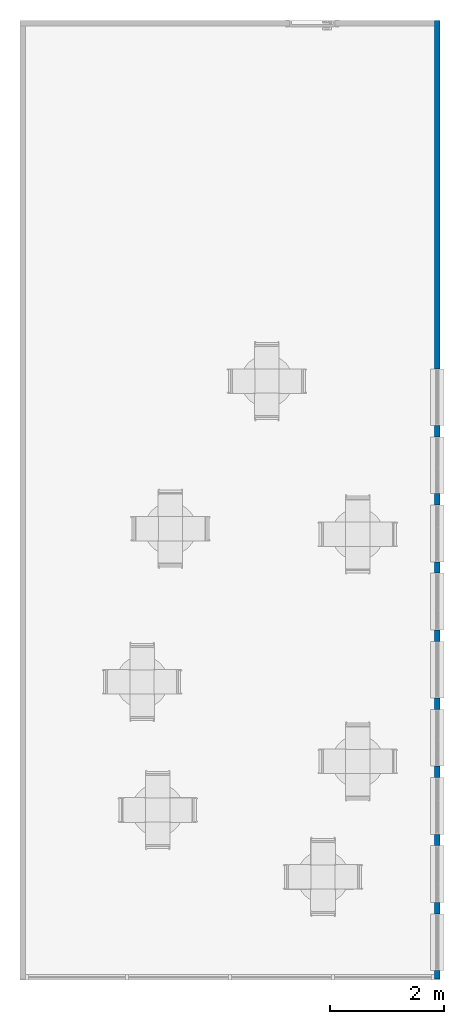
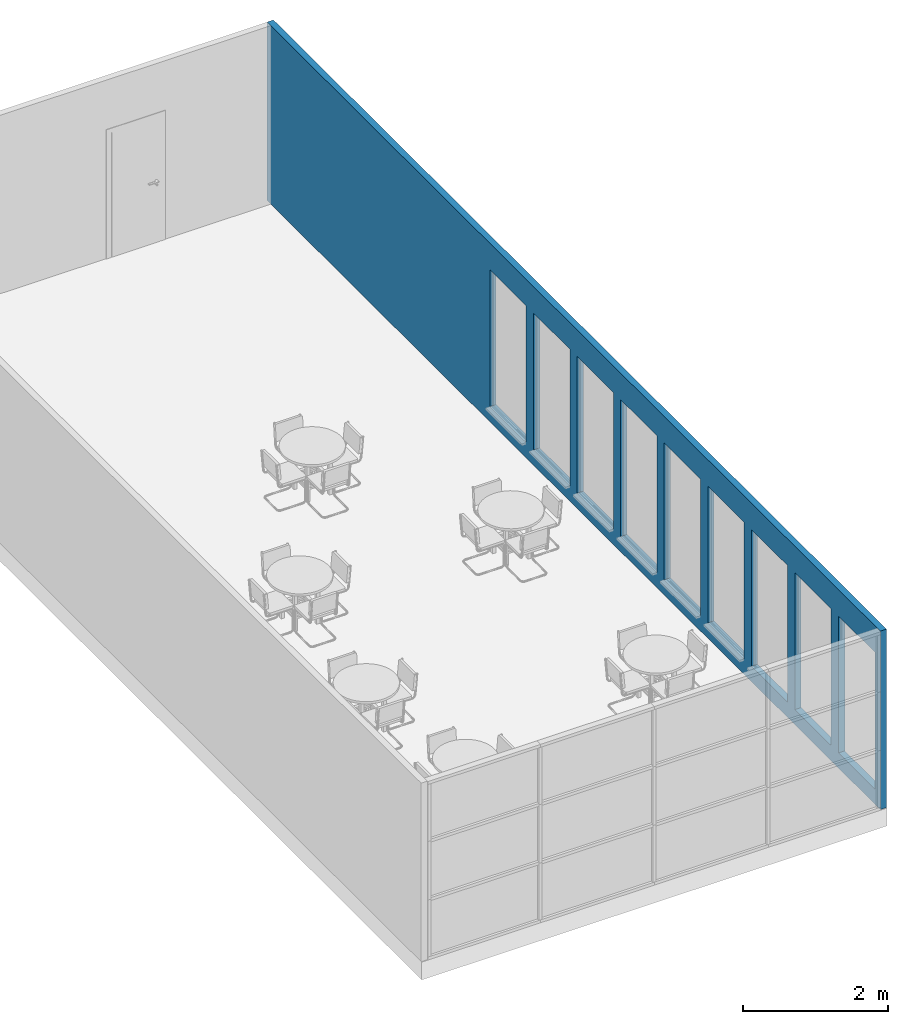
# One storey, part 3 of 11: 1 wall, 9 openings.
"""IFC2X3 building model written with IfcOpenShell, lengths in metres."""

from ifc_helpers import new_model, entity, si_unit, converted_unit, derived_unit, direction, frame, frame_2d, origin, place, context, subcontext, project, spatial, rectangle, extrude, material, layer, layer_set, layer_usage, type_object, element, save


model = new_model("IFC2X3")

# Units and contexts
model_context = context("Model", 3, precision=1e-05, world=origin(), true_north=direction((6.12303176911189e-17, 1.0)))
body_context = subcontext(model_context, "Body", "Model", "MODEL_VIEW")
ifc_project = project(units=[si_unit("LENGTHUNIT", "METRE"), si_unit("AREAUNIT", "SQUARE_METRE"), si_unit("VOLUMEUNIT", "CUBIC_METRE"), converted_unit("PLANEANGLEUNIT", "DEGREE", entity("IfcRatioMeasure", 0.0174532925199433), si_unit("PLANEANGLEUNIT", "RADIAN"), dimensions=[0, 0, 0, 0, 0, 0, 0]), si_unit("MASSUNIT", "GRAM", prefix="KILO"), derived_unit("MASSDENSITYUNIT", [(si_unit("MASSUNIT", "GRAM", prefix="KILO"), 1), (si_unit("LENGTHUNIT", "METRE"), -3)]), derived_unit("MOMENTOFINERTIAUNIT", [(si_unit("LENGTHUNIT", "METRE"), 4)]), si_unit("TIMEUNIT", "SECOND"), si_unit("FREQUENCYUNIT", "HERTZ"), si_unit("THERMODYNAMICTEMPERATUREUNIT", "DEGREE_CELSIUS"), derived_unit("THERMALTRANSMITTANCEUNIT", [(si_unit("MASSUNIT", "GRAM", prefix="KILO"), 1), (si_unit("THERMODYNAMICTEMPERATUREUNIT", "KELVIN"), -1), (si_unit("TIMEUNIT", "SECOND"), -3)]), derived_unit("VOLUMETRICFLOWRATEUNIT", [(si_unit("LENGTHUNIT", "METRE"), 3), (si_unit("TIMEUNIT", "SECOND"), -1)]), si_unit("ELECTRICCURRENTUNIT", "AMPERE"), si_unit("ELECTRICVOLTAGEUNIT", "VOLT"), si_unit("POWERUNIT", "WATT"), si_unit("FORCEUNIT", "NEWTON", prefix="KILO"), si_unit("ILLUMINANCEUNIT", "LUX"), si_unit("LUMINOUSFLUXUNIT", "LUMEN"), si_unit("LUMINOUSINTENSITYUNIT", "CANDELA"), derived_unit("USERDEFINED", [(si_unit("MASSUNIT", "GRAM", prefix="KILO"), -1), (si_unit("LENGTHUNIT", "METRE"), -2), (si_unit("TIMEUNIT", "SECOND"), 3), (si_unit("LUMINOUSFLUXUNIT", "LUMEN"), 1)]), derived_unit("LINEARVELOCITYUNIT", [(si_unit("LENGTHUNIT", "METRE"), 1), (si_unit("TIMEUNIT", "SECOND"), -1)]), si_unit("PRESSUREUNIT", "PASCAL"), derived_unit("USERDEFINED", [(si_unit("LENGTHUNIT", "METRE"), -2), (si_unit("MASSUNIT", "GRAM", prefix="KILO"), 1), (si_unit("TIMEUNIT", "SECOND"), -2)]), derived_unit("LINEARFORCEUNIT", [(si_unit("MASSUNIT", "GRAM", prefix="KILO"), 1), (si_unit("LENGTHUNIT", "METRE"), 1), (si_unit("TIMEUNIT", "SECOND"), -2), (si_unit("LENGTHUNIT", "METRE"), -1)]), derived_unit("PLANARFORCEUNIT", [(si_unit("MASSUNIT", "GRAM", prefix="KILO"), 1), (si_unit("LENGTHUNIT", "METRE"), 1), (si_unit("TIMEUNIT", "SECOND"), -2), (si_unit("LENGTHUNIT", "METRE"), -2)])], contexts=[model_context])

# Site, building, storey
site_placement = place(None, origin())
site = spatial("IfcSite", under=ifc_project, at=site_placement, Name="Default", CompositionType="ELEMENT")
building_placement = place(site_placement, origin())
building = spatial("IfcBuilding", under=site, at=building_placement, CompositionType="ELEMENT")
storey_placement = place(building_placement, origin())
storey = spatial("IfcBuildingStorey", under=building, at=storey_placement, Name="Nivel 1", CompositionType="ELEMENT", Elevation=0.0)

# Wall, openings
ifc_material_1 = material(Name="Enlucido - Blanco")
ifc_layer_1 = layer(ifc_material_1, 0.015)
ifc_material_2 = material(Name="Ladrillo de cerámica hueco doble")
ifc_layer_2 = layer(ifc_material_2, 0.07)
ifc_layer_3 = layer(ifc_material_1, 0.015)
ifc_layer_set = layer_set([ifc_layer_1, ifc_layer_2, ifc_layer_3], Name="Muro básico:Partición con capa de yeso")
ifc_layer_usage = layer_usage(ifc_layer_set, "AXIS2", "NEGATIVE", 0.05)
wall_type = type_object("IfcWallType", Name="Muro básico:Partición con capa de yeso", PredefinedType="STANDARD", material=ifc_layer_set)
wall_placement = place(storey_placement, frame((3.16695689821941, 9.38498292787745, 0.0), z_axis=(0.0, 0.0, 1.0), x_axis=(0.0, -1.0, 0.0)))
wall = element("IfcWallStandardCase", 1, at=wall_placement, inside=storey, type_object=wall_type, material=ifc_layer_usage, Name="Muro básico:Partición con capa de yeso", ObjectType="Muro básico:Partición con capa de yeso", context=body_context, shape_type="SweptSolid", body=[
    extrude(rectangle(XDim=16.885, YDim=0.1, at=frame_2d((8.44250000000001, -6.24500451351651e-17), x_axis=(-1.0, 0.0))), origin(), (0.0, 0.0, 1.0), 3.0),
])
opening_1_placement = place(wall_placement, frame((15.7341744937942, -0.0500000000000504, 0.254842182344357)))
element("IfcOpeningElement", 2, at=opening_1_placement, cuts=wall, Name="Ventana simple:100 x 100 cm:1", ObjectType="Opening", context=body_context, shape_type="SweptSolid", body=[
    extrude(rectangle(XDim=2.3, YDim=0.999999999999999, at=frame_2d((1.15, 0.5), x_axis=(1.0, 0.0))), frame((0.0, 0.0, 0.0), z_axis=(0.0, 1.0, 0.0), x_axis=(0.0, 0.0, 1.0)), (0.0, 0.0, 1.0), 0.1),
])
opening_2_placement = place(wall_placement, frame((14.5341744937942, -0.0500000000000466, 0.254842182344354)))
element("IfcOpeningElement", 3, at=opening_2_placement, cuts=wall, Name="Ventana simple:100 x 100 cm:1", ObjectType="Opening", context=body_context, shape_type="SweptSolid", body=[
    extrude(rectangle(XDim=2.3, YDim=0.999999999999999, at=frame_2d((1.15, 0.5), x_axis=(1.0, 0.0))), frame((0.0, 0.0, 0.0), z_axis=(0.0, 1.0, 0.0), x_axis=(0.0, 0.0, 1.0)), (0.0, 0.0, 1.0), 0.1),
])
opening_3_placement = place(wall_placement, frame((13.3341744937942, -0.0500000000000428, 0.25484218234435)))
element("IfcOpeningElement", 4, at=opening_3_placement, cuts=wall, Name="Ventana simple:100 x 100 cm:1", ObjectType="Opening", context=body_context, shape_type="SweptSolid", body=[
    extrude(rectangle(XDim=2.3, YDim=0.999999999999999, at=frame_2d((1.15, 0.5), x_axis=(1.0, 0.0))), frame((0.0, 0.0, 0.0), z_axis=(0.0, 1.0, 0.0), x_axis=(0.0, 0.0, 1.0)), (0.0, 0.0, 1.0), 0.1),
])
opening_4_placement = place(wall_placement, frame((12.1341744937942, -0.050000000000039, 0.254842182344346)))
element("IfcOpeningElement", 5, at=opening_4_placement, cuts=wall, Name="Ventana simple:100 x 100 cm:1", ObjectType="Opening", context=body_context, shape_type="SweptSolid", body=[
    extrude(rectangle(XDim=2.3, YDim=0.999999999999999, at=frame_2d((1.15, 0.5), x_axis=(1.0, 0.0))), frame((0.0, 0.0, 0.0), z_axis=(0.0, 1.0, 0.0), x_axis=(0.0, 0.0, 1.0)), (0.0, 0.0, 1.0), 0.1),
])
opening_5_placement = place(wall_placement, frame((10.9341744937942, -0.0500000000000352, 0.254842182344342)))
element("IfcOpeningElement", 6, at=opening_5_placement, cuts=wall, Name="Ventana simple:100 x 100 cm:1", ObjectType="Opening", context=body_context, shape_type="SweptSolid", body=[
    extrude(rectangle(XDim=2.3, YDim=0.999999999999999, at=frame_2d((1.15, 0.5), x_axis=(1.0, 0.0))), frame((0.0, 0.0, 0.0), z_axis=(0.0, 1.0, 0.0), x_axis=(0.0, 0.0, 1.0)), (0.0, 0.0, 1.0), 0.1),
])
opening_6_placement = place(wall_placement, frame((9.73417449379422, -0.0500000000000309, 0.254842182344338)))
element("IfcOpeningElement", 7, at=opening_6_placement, cuts=wall, Name="Ventana simple:100 x 100 cm:1", ObjectType="Opening", context=body_context, shape_type="SweptSolid", body=[
    extrude(rectangle(XDim=2.3, YDim=0.999999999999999, at=frame_2d((1.15, 0.5), x_axis=(1.0, 0.0))), frame((0.0, 0.0, 0.0), z_axis=(0.0, 1.0, 0.0), x_axis=(0.0, 0.0, 1.0)), (0.0, 0.0, 1.0), 0.1),
])
opening_7_placement = place(wall_placement, frame((8.53417449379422, -0.0500000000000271, 0.254842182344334)))
element("IfcOpeningElement", 8, at=opening_7_placement, cuts=wall, Name="Ventana simple:100 x 100 cm:1", ObjectType="Opening", context=body_context, shape_type="SweptSolid", body=[
    extrude(rectangle(XDim=2.3, YDim=1.0, at=frame_2d((1.15, 0.499999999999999), x_axis=(1.0, 0.0))), frame((0.0, 0.0, 0.0), z_axis=(0.0, 1.0, 0.0), x_axis=(0.0, 0.0, 1.0)), (0.0, 0.0, 1.0), 0.1),
])
opening_8_placement = place(wall_placement, frame((7.33417449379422, -0.0500000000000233, 0.25484218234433)))
element("IfcOpeningElement", 9, at=opening_8_placement, cuts=wall, Name="Ventana simple:100 x 100 cm:1", ObjectType="Opening", context=body_context, shape_type="SweptSolid", body=[
    extrude(rectangle(XDim=2.3, YDim=1.0, at=frame_2d((1.15, 0.499999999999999), x_axis=(1.0, 0.0))), frame((0.0, 0.0, 0.0), z_axis=(0.0, 1.0, 0.0), x_axis=(0.0, 0.0, 1.0)), (0.0, 0.0, 1.0), 0.1),
])
opening_9_placement = place(wall_placement, frame((6.13417449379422, -0.0500000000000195, 0.254842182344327)))
element("IfcOpeningElement", 10, at=opening_9_placement, cuts=wall, Name="Ventana simple:100 x 100 cm:1", ObjectType="Opening", context=body_context, shape_type="SweptSolid", body=[
    extrude(rectangle(XDim=2.3, YDim=1.0, at=frame_2d((1.15, 0.499999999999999), x_axis=(1.0, 0.0))), frame((0.0, 0.0, 0.0), z_axis=(0.0, 1.0, 0.0), x_axis=(0.0, 0.0, 1.0)), (0.0, 0.0, 1.0), 0.1),
])

save(model, "model.ifc")
